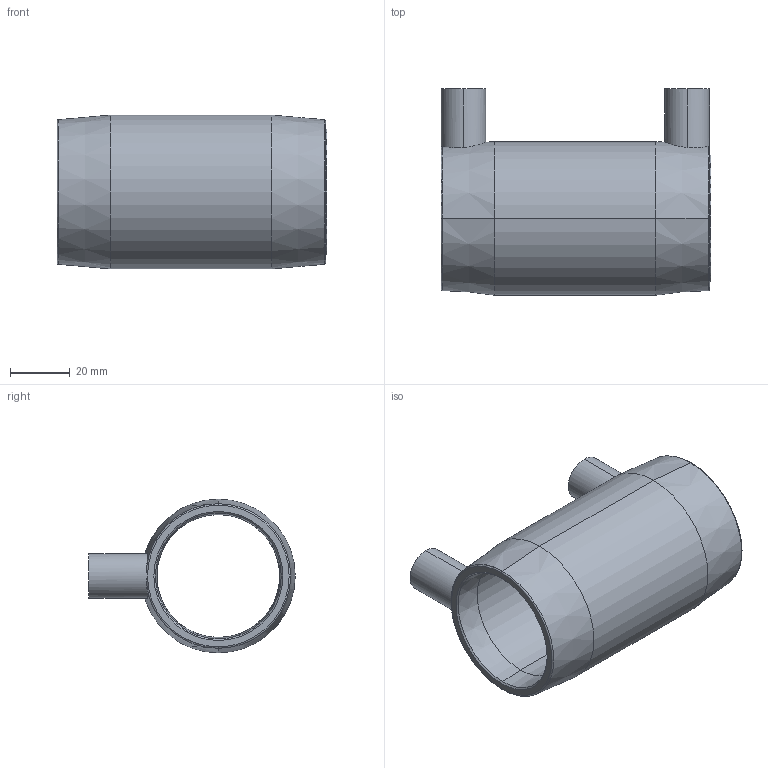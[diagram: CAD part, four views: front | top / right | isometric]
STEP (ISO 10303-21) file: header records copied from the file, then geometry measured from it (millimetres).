
FILE_DESCRIPTION (( 'STEP AP214' ), '1' );
FILE_NAME ('CBKHA40.STEP', '2018-09-19T13:57:18', ( '' ), ( '' ), 'SwSTEP 2.0', 'SolidWorks 2017', '' );
FILE_SCHEMA (( 'AUTOMOTIVE_DESIGN' ));
Length unit declared in the file: millimetre
Products named in the file (1): CBKHA40
Bounding box: 90.5 x 69.2 x 51.55 mm (x, y, z)
Volume: 67437.3 mm3; surface area: 30328.8 mm2
Topology: 1 solids, 1 shells, 68 faces, 142 edges, 82 vertices
Faces by surface type: cone 24, cylinder 20, torus 14, plane 10
Entity records: 2108 total; most frequent: CARTESIAN_POINT 463, DIRECTION 358, ORIENTED_EDGE 284, AXIS2_PLACEMENT_3D 157, EDGE_CURVE 142, CIRCLE 88, VERTEX_POINT 82, EDGE_LOOP 76
